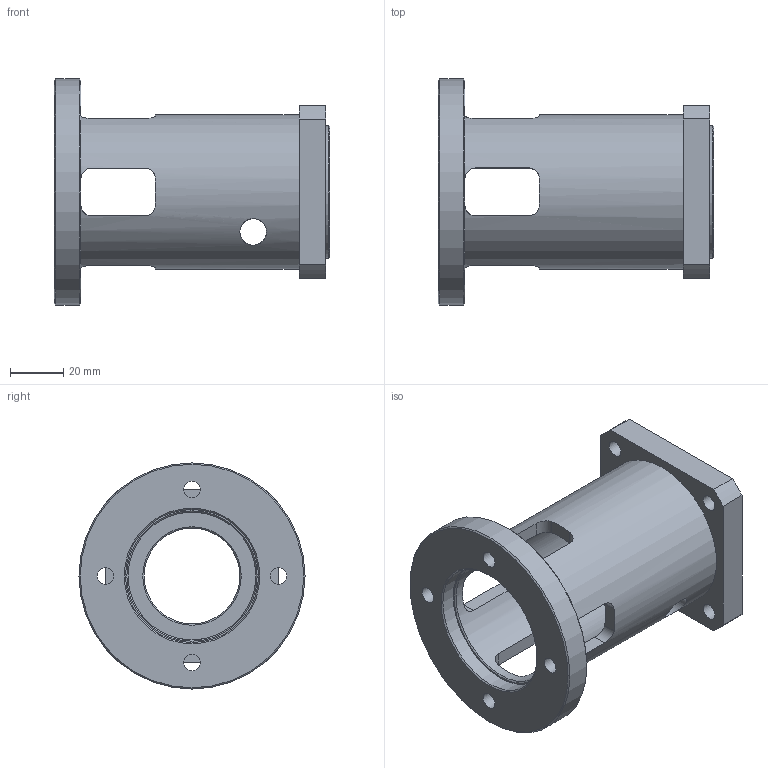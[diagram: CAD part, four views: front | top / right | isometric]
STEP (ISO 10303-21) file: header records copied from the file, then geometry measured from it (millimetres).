
FILE_DESCRIPTION((''),'2;1');
FILE_NAME('S:\UNI MOTION LINEARNE ENOTE\LINEARNE ENOTE\POSEBNE IZVEDBE\171 TRANSTECHNIK VK MTJ80 MP080PLE80 GESM1924 KPL\VK MTJ80 MP080 PLE80 GESM19 24 SAM171.stp','2012-02-06T16:13:13',('uporabnik'),(''),'Autodesk Inventor 2012','Autodesk Inventor 2012','');
FILE_SCHEMA(('AUTOMOTIVE_DESIGN { 1 0 10303 214 1 1 1 1 }'));
Length unit declared in the file: millimetre
Products named in the file (1): VK MTJ80 MP080 PLE80 GESM19 24 SAM171
Bounding box: 103.5 x 85 x 85 mm (x, y, z)
Volume: 125466.8 mm3; surface area: 46442.6 mm2
Topology: 1 solids, 1 shells, 66 faces, 194 edges, 130 vertices
Faces by surface type: cylinder 36, plane 23, cone 7
Full cylindrical faces by diameter (mm): 6.2 x8, 10 x2, 36 x1, 48 x1, 50 x2, 58 x1, 85 x1
Entity records: 2428 total; most frequent: CARTESIAN_POINT 771, ORIENTED_EDGE 316, DIRECTION 314, EDGE_CURVE 158, AXIS2_PLACEMENT_3D 125, EDGE_LOOP 120, VERTEX_POINT 118, FACE_OUTER_BOUND 66
